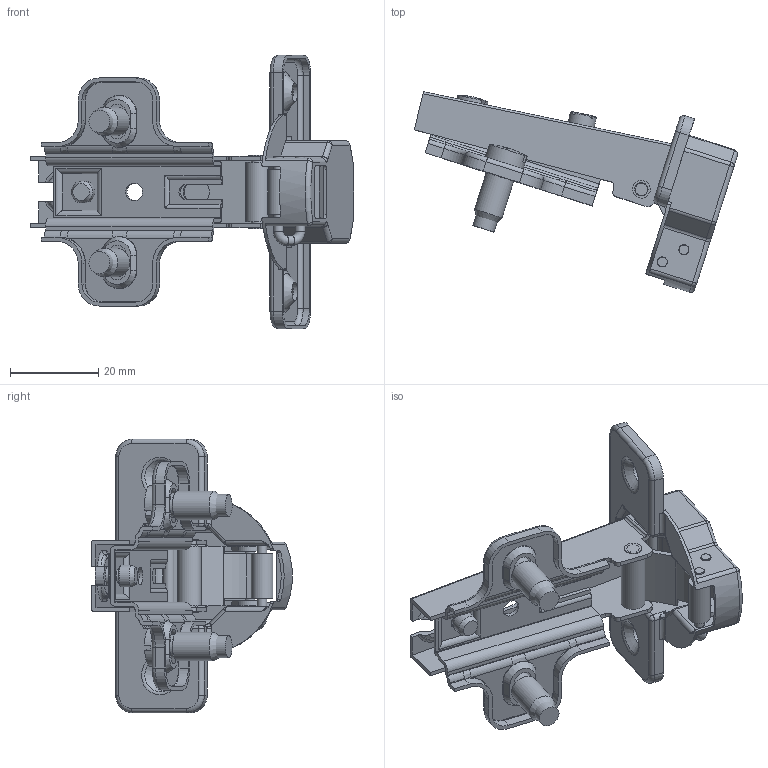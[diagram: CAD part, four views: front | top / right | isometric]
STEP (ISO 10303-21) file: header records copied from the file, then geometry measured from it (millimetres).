
FILE_DESCRIPTION(/* description */ (''),/* implementation_level */ '2;1');
FILE_NAME(/* name */ 'W:\R&D\pub\Katalog techniczny\bryły 3D\ZP-BICN090ZE.stp',/* time_stamp */ '2016-09-13T12:50:15+02:00',/* author */ ('tomaszw'),/* organization */ (''),/* preprocessor_version */ 'ST-DEVELOPER v16.1',/* originating_system */ 'Autodesk Inventor 2016',/* authorisation */ '');
FILE_SCHEMA (('AUTOMOTIVE_DESIGN { 1 0 10303 214 3 1 1 }'));
Length unit declared in the file: millimetre
Products named in the file (12): P0; ZP-BICN0_1; ZP-BICN0-P; ZP-BICN0_2; ZP-BICN0_pin1; ZP-BICN0_pin2; ZP-BICN0_pin3; Euro; Wkret4x6; WR; ZP-BICN090BE; ZP-BICN(R)07(8)(9)0(2)BE(ZE)
Assembly tree (12 placements, depth 2):
  ZP-BICN(R)07(8)(9)0(2)BE(ZE)
    P0
    ZP-BICN0_1
    ZP-BICN0-P
    ZP-BICN0_2
    ZP-BICN0_pin1
    ZP-BICN0_pin2
    ZP-BICN0_pin3
    Euro  x2
    Wkret4x6
    WR
    ZP-BICN090BE
Bounding box: 73.26 x 45.45 x 62 mm (x, y, z)
Volume: 9468 mm3; surface area: 19770.4 mm2
Topology: 14 solids, 14 shells, 683 faces, 1685 edges, 1024 vertices
Faces by surface type: cylinder 284, plane 241, torus 65, bspline 37, sphere 34, cone 22
Full cylindrical faces by diameter (mm): 2.2 x3, 2.279 x2, 2.3 x4, 2.5 x4, 2.8 x1, 3 x5, 3.242 x1, 3.5 x2, 4 x4, 4.2 x2, 5 x3, 5.5 x2, 6 x2, 6.5 x2, 7 x1, 9 x2
Entity records: 20569 total; most frequent: CARTESIAN_POINT 4674, DIRECTION 3447, ORIENTED_EDGE 3126, EDGE_CURVE 1563, AXIS2_PLACEMENT_3D 1337, VERTEX_POINT 982, LINE 773, VECTOR 773
